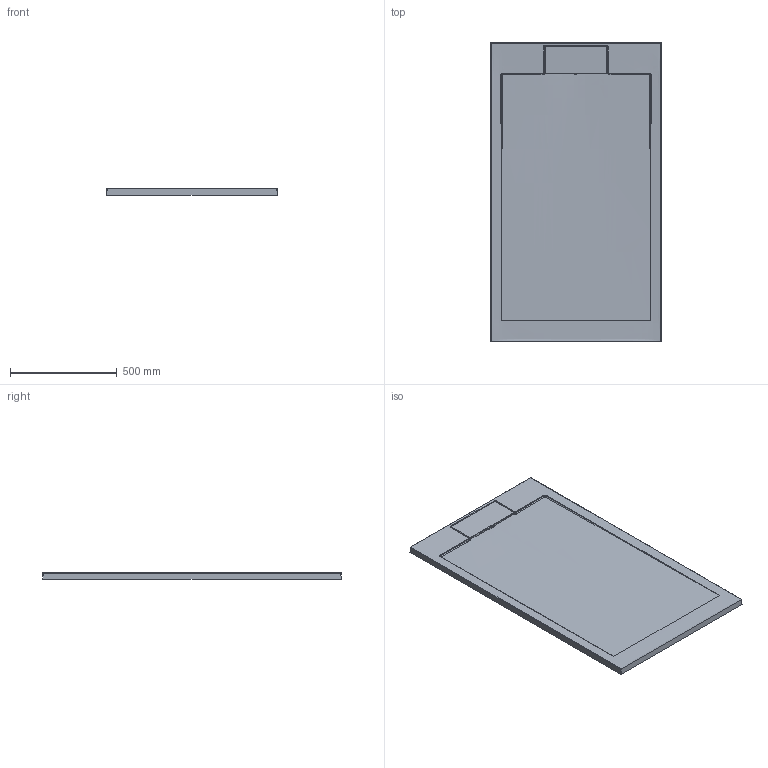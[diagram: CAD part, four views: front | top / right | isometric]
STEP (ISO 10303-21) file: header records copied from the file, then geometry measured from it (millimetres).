
FILE_DESCRIPTION (( 'STEP AP214' ), '1' );
FILE_NAME ('CORAL 140x80 A.STEP', '2024-05-13T09:59:49', ( '' ), ( '' ), 'SwSTEP 2.0', 'SolidWorks 2021', '' );
FILE_SCHEMA (( 'AUTOMOTIVE_DESIGN' ));
Length unit declared in the file: millimetre
Products named in the file (2): None_2; CORAL 140x80 A
Assembly tree (1 placements, depth 2):
  CORAL 140x80 A
    None_2
Bounding box: 801.57 x 1400.96 x 30 mm (x, y, z)
Surface area: 2454733.7 mm2 (no closed solid volume)
Topology: 0 solids, 2 shells, 129 faces, 310 edges, 177 vertices
Faces by surface type: bspline 65, plane 32, cylinder 31, cone 1
Full cylindrical faces by diameter (mm): 90 x1
Entity records: 17462 total; most frequent: CARTESIAN_POINT 15118, ORIENTED_EDGE 591, EDGE_CURVE 300, DIRECTION 235, B_SPLINE_CURVE_WITH_KNOTS 197, VERTEX_POINT 176, EDGE_LOOP 135, FACE_OUTER_BOUND 131
